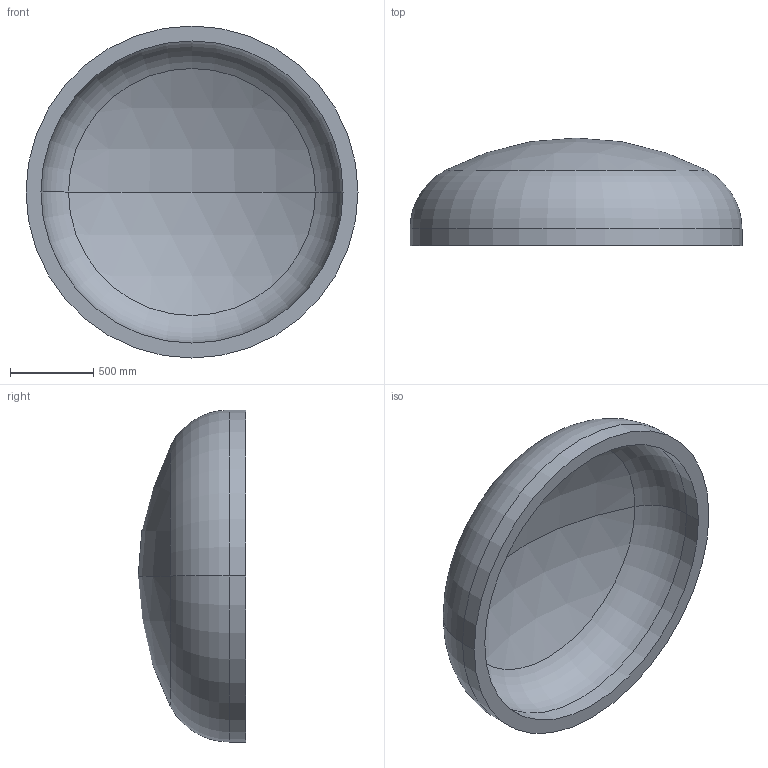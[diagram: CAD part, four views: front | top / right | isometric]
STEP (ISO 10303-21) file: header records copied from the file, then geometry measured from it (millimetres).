
FILE_DESCRIPTION (( 'STEP AP203' ), '1' );
FILE_NAME ('DIN 28013 Korbbogenform_-_Boden DIN 28013 - 2000 x 100 - I - s=90.step', '2016-07-01T14:07:06', ( '' ), ( '' ), 'SwSTEP 2.0', 'SolidWorks 2013', '' );
FILE_SCHEMA (( 'CONFIG_CONTROL_DESIGN' ));
Length unit declared in the file: millimetre
Products named in the file (1): DIN 28013 Korbbogenform_-_Boden DIN 28013 - 2000 x 100 - I - s=90
Bounding box: 2000 x 648.03 x 2000 mm (x, y, z)
Volume: 423998100.7 mm3; surface area: 9979181.8 mm2
Topology: 1 solids, 1 shells, 13 faces, 24 edges, 14 vertices
Faces by surface type: torus 4, cylinder 4, sphere 4, plane 1
Entity records: 407 total; most frequent: DIRECTION 72, CARTESIAN_POINT 52, ORIENTED_EDGE 48, AXIS2_PLACEMENT_3D 34, EDGE_CURVE 24, CIRCLE 20, VERTEX_POINT 14, EDGE_LOOP 14
